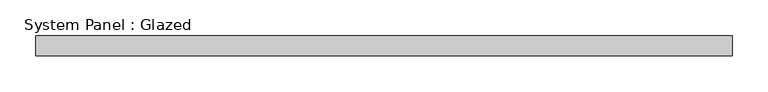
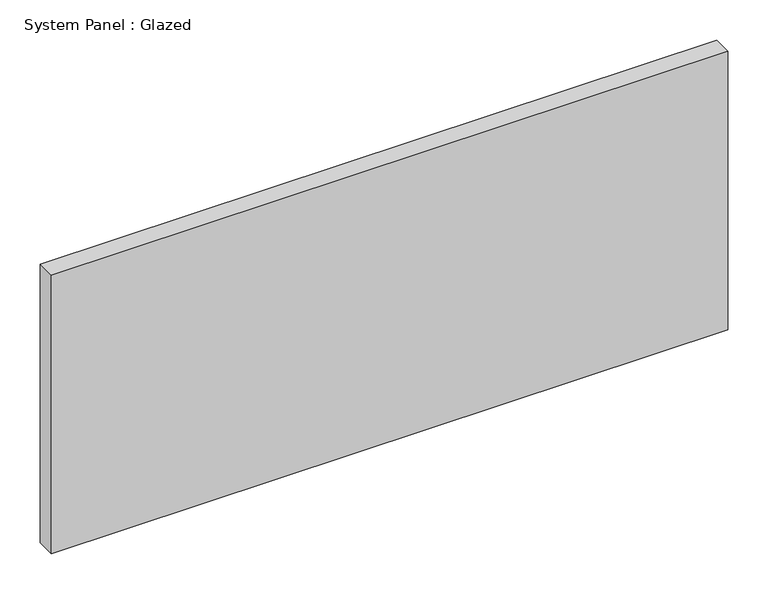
"""IFC4 building model written with IfcOpenShell, lengths in millimetres: plate geometry, System Panel : Glazed."""

from ifc_helpers import new_model, si_unit, origin, origin_with_axes, place, context, project, spatial, polyline, outline, extrude, source, transform, mapped, element, save


def system_panel_glazed_67192023(model_context):
    return source(origin(), model_context, "Body", "SweptSolid", [
        extrude(outline(polyline([(485.5, -14.0), (-485.5, -14.0), (-485.5, 14.0), (485.5, 14.0), (485.5, -14.0)])), origin_with_axes(), (0.0, 0.0, 1.0), 422.5),
    ])


if __name__ == "__main__":
    model = new_model("IFC4")
    model_context = context("Model", 3, world=origin())
    ifc_project = project(units=[si_unit("LENGTHUNIT", "METRE", prefix="MILLI")], contexts=[model_context])
    site = spatial("IfcSite", under=ifc_project)
    building = spatial("IfcBuilding", under=site)
    placement = place(None, origin())
    system_panel_glazed_shape = system_panel_glazed_67192023(model_context)
    element("IfcPlate", 1, ObjectType="System Panel : Glazed", at=placement, inside=building, context=model_context, shape_type="MappedRepresentation", body=[
        mapped(system_panel_glazed_shape, transform((0.0, 0.0, 0.0), x_axis=(1.0, 0.0, 0.0), y_axis=(0.0, 1.0, 0.0), z_axis=(0.0, 0.0, 1.0))),
    ])
    save(model, "model.ifc")
